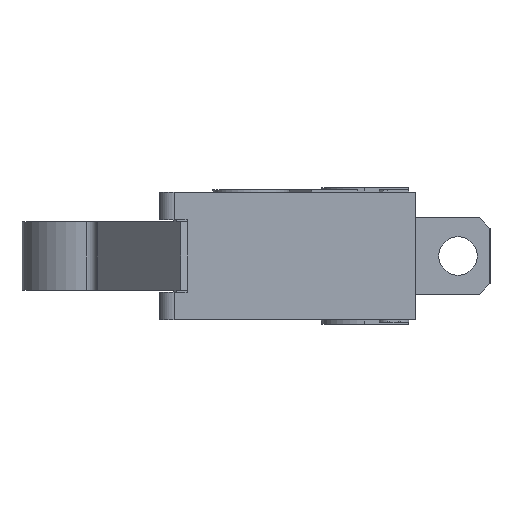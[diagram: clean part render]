
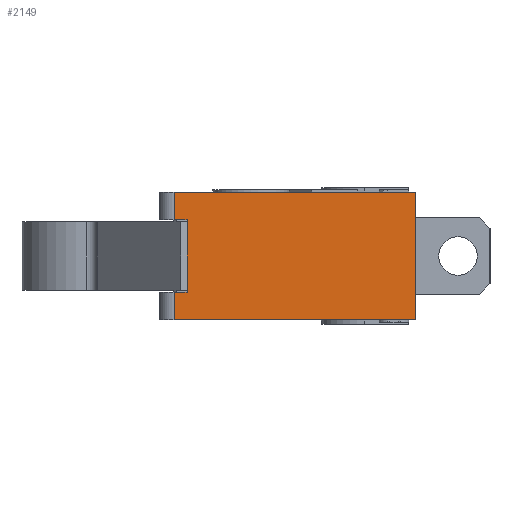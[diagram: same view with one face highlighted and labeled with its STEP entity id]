
A CAD part, left-side view. The second image highlights one B-rep face of the part: STEP entity #2149.
In plain terms, the highlighted planar face has unit normal (-1, 0, 0).
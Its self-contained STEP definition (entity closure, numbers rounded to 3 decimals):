
#1603=CARTESIAN_POINT('',(-14.7,-2.4,-3.0));
#1604=VERTEX_POINT('',#1603);
#1611=CARTESIAN_POINT('',(-14.7,8.9,-3.0));
#1612=VERTEX_POINT('',#1611);
#1613=CARTESIAN_POINT('',(-14.7,8.9,-3.0));
#1614=DIRECTION('',(0.0,-1.0,0.0));
#1615=VECTOR('',#1614,11.3);
#1616=LINE('',#1613,#1615);
#1617=EDGE_CURVE('',#1612,#1604,#1616,.T.);
#2087=CARTESIAN_POINT('',(-14.7,-2.4,-3.0));
#2088=DIRECTION('',(-1.0,0.0,0.0));
#2089=DIRECTION('',(0.0,0.0,1.0));
#2090=AXIS2_PLACEMENT_3D('',#2087,#2088,#2089);
#2091=PLANE('',#2090);
#2092=CARTESIAN_POINT('',(-14.7,8.3,-1.7));
#2093=VERTEX_POINT('',#2092);
#2094=CARTESIAN_POINT('',(-14.7,8.9,-1.7));
#2095=VERTEX_POINT('',#2094);
#2096=CARTESIAN_POINT('',(-14.7,8.3,-1.7));
#2097=DIRECTION('',(0.0,1.0,0.0));
#2098=VECTOR('',#2097,0.6);
#2099=LINE('',#2096,#2098);
#2100=EDGE_CURVE('',#2093,#2095,#2099,.T.);
#2101=ORIENTED_EDGE('',*,*,#2100,.T.);
#2102=CARTESIAN_POINT('',(-14.7,8.9,-3.0));
#2103=DIRECTION('',(0.0,0.0,1.0));
#2104=VECTOR('',#2103,1.3);
#2105=LINE('',#2102,#2104);
#2106=EDGE_CURVE('',#1612,#2095,#2105,.T.);
#2107=ORIENTED_EDGE('',*,*,#2106,.F.);
#2108=ORIENTED_EDGE('',*,*,#1617,.T.);
#2109=CARTESIAN_POINT('',(-14.7,-2.4,3.0));
#2110=VERTEX_POINT('',#2109);
#2111=CARTESIAN_POINT('',(-14.7,-2.4,-3.0));
#2112=DIRECTION('',(0.0,0.0,1.0));
#2113=VECTOR('',#2112,6.0);
#2114=LINE('',#2111,#2113);
#2115=EDGE_CURVE('',#1604,#2110,#2114,.T.);
#2116=ORIENTED_EDGE('',*,*,#2115,.T.);
#2117=CARTESIAN_POINT('',(-14.7,8.9,3.0));
#2118=VERTEX_POINT('',#2117);
#2119=CARTESIAN_POINT('',(-14.7,-2.4,3.0));
#2120=DIRECTION('',(0.0,1.0,0.0));
#2121=VECTOR('',#2120,11.3);
#2122=LINE('',#2119,#2121);
#2123=EDGE_CURVE('',#2110,#2118,#2122,.T.);
#2124=ORIENTED_EDGE('',*,*,#2123,.T.);
#2125=CARTESIAN_POINT('',(-14.7,8.9,1.7));
#2126=VERTEX_POINT('',#2125);
#2127=CARTESIAN_POINT('',(-14.7,8.9,1.7));
#2128=DIRECTION('',(0.0,0.0,1.0));
#2129=VECTOR('',#2128,1.3);
#2130=LINE('',#2127,#2129);
#2131=EDGE_CURVE('',#2126,#2118,#2130,.T.);
#2132=ORIENTED_EDGE('',*,*,#2131,.F.);
#2133=CARTESIAN_POINT('',(-14.7,8.3,1.7));
#2134=VERTEX_POINT('',#2133);
#2135=CARTESIAN_POINT('',(-14.7,8.9,1.7));
#2136=DIRECTION('',(0.0,-1.0,0.0));
#2137=VECTOR('',#2136,0.6);
#2138=LINE('',#2135,#2137);
#2139=EDGE_CURVE('',#2126,#2134,#2138,.T.);
#2140=ORIENTED_EDGE('',*,*,#2139,.T.);
#2141=CARTESIAN_POINT('',(-14.7,8.3,1.7));
#2142=DIRECTION('',(0.0,0.0,-1.0));
#2143=VECTOR('',#2142,3.4);
#2144=LINE('',#2141,#2143);
#2145=EDGE_CURVE('',#2134,#2093,#2144,.T.);
#2146=ORIENTED_EDGE('',*,*,#2145,.T.);
#2147=EDGE_LOOP('',(#2101,#2107,#2108,#2116,#2124,#2132,#2140,#2146));
#2148=FACE_OUTER_BOUND('',#2147,.T.);
#2149=ADVANCED_FACE('',(#2148),#2091,.T.);
